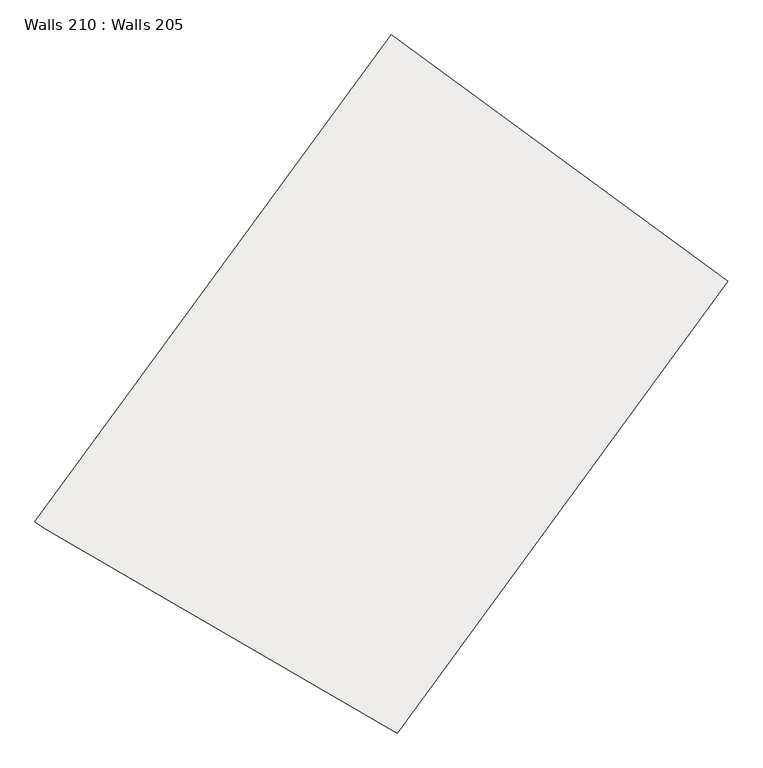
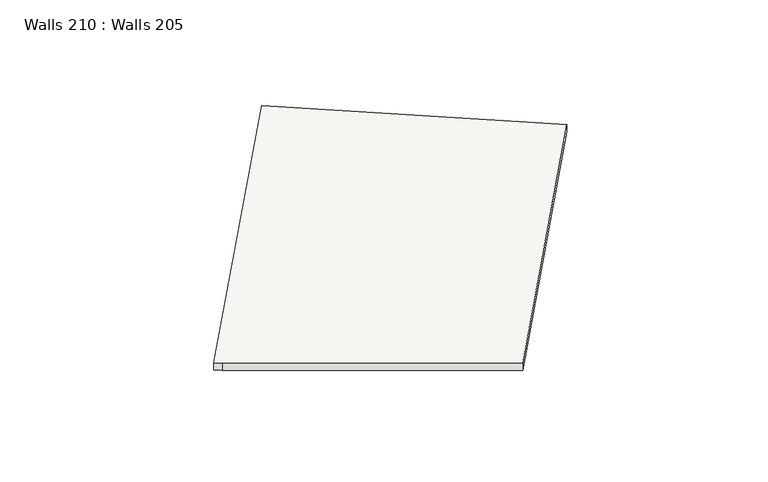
"""IFC4 building model written with IfcOpenShell, lengths in millimetres: slab geometry, Walls 210 : Walls 205."""

import ifcopenshell
import ifcopenshell.guid

model = None  # the IFC model being written
_history = None  # IfcOwnerHistory: only IFC2X3 demands one
_inside = {}  # id of a spatial element -> (the spatial element, [elements in it])
_under = {}  # id of a project, library or spatial element -> (it, [spatial elements below it])
_declared = {}  # id of a project -> (the project, [libraries it declares])
_typed = {}  # id of a type object -> (the type object, [elements of that type])
_made_of = {}  # id of a material, layer set ... -> (it, [elements and type objects made of it])


def new_model(schema):
    """Start an empty IFC model of exactly this schema.

    Asked for "IFC4X3", IfcOpenShell would pick the latest addendum, in which some entities
    have other attributes; the version numbers below select the first issue.
    IFC2X3 requires an IfcOwnerHistory on every rooted entity: one is made here for all.
    """
    global model, _history
    if schema == "IFC4X3":
        model = ifcopenshell.file(schema_version=(4, 3, 0, 0))
    else:
        model = ifcopenshell.file(schema=schema)
    _inside.clear()
    _under.clear()
    _declared.clear()
    _typed.clear()
    _made_of.clear()
    _history = None
    if model.schema == "IFC2X3":
        org = make("IfcOrganization", Name="unknown")
        user = make(
            "IfcPersonAndOrganization",
            ThePerson=make("IfcPerson", FamilyName="unknown"),
            TheOrganization=org,
        )
        app = make(
            "IfcApplication",
            ApplicationDeveloper=org,
            Version="unknown",
            ApplicationFullName="unknown",
            ApplicationIdentifier="unknown",
        )
        _history = make(
            "IfcOwnerHistory",
            OwningUser=user,
            OwningApplication=app,
            ChangeAction="ADDED",
            CreationDate=0,
        )
    return model


def make(cls, **values):
    """One entity of the class cls with the attributes given. An attribute that is None is left unset."""
    return model.create_entity(
        cls, **{name: value for name, value in values.items() if value is not None}
    )


def rooted(cls, **values):
    """An entity with a GlobalId (a new one), such as an element, a storey or a relation."""
    return make(cls, GlobalId=ifcopenshell.guid.new(), OwnerHistory=_history, **values)


def si_unit(unit_type, name, prefix=None):
    """IfcSIUnit, for example si_unit("LENGTHUNIT", "METRE", prefix="MILLI")."""
    return make("IfcSIUnit", UnitType=unit_type, Prefix=prefix, Name=name)


def assignment(units):
    """IfcUnitAssignment: the units of a project."""
    return None if units is None else make("IfcUnitAssignment", Units=units)


def point(xyz):
    """IfcCartesianPoint."""
    return None if xyz is None else make("IfcCartesianPoint", Coordinates=xyz)


def direction(xyz):
    """IfcDirection."""
    return None if xyz is None else make("IfcDirection", DirectionRatios=xyz)


def frame(location, z_axis=None, x_axis=None):
    """IfcAxis2Placement3D, a coordinate frame: its origin and axes. An axis left out is left unset."""
    return make(
        "IfcAxis2Placement3D",
        Location=point(location),
        Axis=direction(z_axis),
        RefDirection=direction(x_axis),
    )


def origin():
    """The frame at (0, 0, 0) with its axes left unset."""
    return frame((0.0, 0.0, 0.0))


def place(relative_to, where):
    """IfcLocalPlacement: puts the frame where relative to a parent placement (None: the world)."""
    return make(
        "IfcLocalPlacement", PlacementRelTo=relative_to, RelativePlacement=where
    )


def context(
    kind, dimensions, precision=None, world=None, true_north=None, identifier=None
):
    """IfcGeometricRepresentationContext, for example the 3D "Model" context."""
    return make(
        "IfcGeometricRepresentationContext",
        ContextIdentifier=identifier,
        ContextType=kind,
        CoordinateSpaceDimension=dimensions,
        Precision=precision,
        WorldCoordinateSystem=world,
        TrueNorth=true_north,
    )


def project(units=None, contexts=None):
    """IfcProject with its units and contexts."""
    return rooted(
        "IfcProject",
        Name="project",
        RepresentationContexts=contexts,
        UnitsInContext=assignment(units),
    )


def spatial(cls, under=None, at=None, **own):
    """A site, building, storey or space (cls), placed at a placement, below another one or the project."""
    s = rooted(cls, ObjectPlacement=at, **own)
    if under is not None:
        _under.setdefault(under.id(), (under, []))[1].append(s)
    return s


def faces_of(points, faces, orient=None, outer=None):
    """IfcFace entities. A face is a list of loops; a loop is a list of indices into points, from 0.

    orient and outer hold one flag for each loop. By default every Orientation is true, the
    first loop of a face is its IfcFaceOuterBound and the others are IfcFaceBound.
    """
    made = []
    for i, loops in enumerate(faces):
        bounds = []
        for j, loop in enumerate(loops):
            is_outer = j == 0 if outer is None else outer[i][j]
            bounds.append(
                make(
                    "IfcFaceOuterBound" if is_outer else "IfcFaceBound",
                    Bound=make("IfcPolyLoop", Polygon=[points[k] for k in loop]),
                    Orientation=True if orient is None else orient[i][j],
                )
            )
        made.append(make("IfcFace", Bounds=bounds))
    return made


def faceted_brep(points, faces, orient=None, outer=None, voids=None):
    """IfcFacetedBrep: a solid bounded by flat faces; with voids (closed shells), ...WithVoids."""
    shared = [point(p) for p in points]
    hull = make("IfcClosedShell", CfsFaces=faces_of(shared, faces, orient, outer))
    if voids is None:
        return make("IfcFacetedBrep", Outer=hull)
    return make(
        "IfcFacetedBrepWithVoids",
        Outer=hull,
        Voids=[
            make(cls, CfsFaces=faces_of(shared, fs, o, b)) for cls, fs, o, b in voids
        ],
    )


def shape(context_of_items, identifier, shape_type, items):
    """IfcShapeRepresentation: the items that make up one representation, for example the "Body"."""
    return make(
        "IfcShapeRepresentation",
        ContextOfItems=context_of_items,
        RepresentationIdentifier=identifier,
        RepresentationType=shape_type,
        Items=items,
    )


def source(mapping_origin, context_of_items, identifier, shape_type, items):
    """IfcRepresentationMap: a shape defined once, which mapped items show again and again."""
    return make(
        "IfcRepresentationMap",
        MappingOrigin=mapping_origin,
        MappedRepresentation=shape(context_of_items, identifier, shape_type, items),
    )


def transform(
    local_origin,
    x_axis=None,
    y_axis=None,
    z_axis=None,
    scale=None,
    scale2=None,
    scale3=None,
    uniform=True,
):
    """IfcCartesianTransformationOperator3D, or its non-uniform kind. x_axis, y_axis, z_axis: its Axis1, 2, 3."""
    if uniform:
        return make(
            "IfcCartesianTransformationOperator3D",
            Axis1=direction(x_axis),
            Axis2=direction(y_axis),
            LocalOrigin=point(local_origin),
            Scale=scale,
            Axis3=direction(z_axis),
        )
    return make(
        "IfcCartesianTransformationOperator3DnonUniform",
        Axis1=direction(x_axis),
        Axis2=direction(y_axis),
        LocalOrigin=point(local_origin),
        Scale=scale,
        Axis3=direction(z_axis),
        Scale2=scale2,
        Scale3=scale3,
    )


def mapped(mapping_source, mapping_target):
    """IfcMappedItem: shows the shape of a source again, moved by a transform."""
    return make(
        "IfcMappedItem", MappingSource=mapping_source, MappingTarget=mapping_target
    )


def made_of(thing, what):
    """Note that an element or type object is made of a material, layer set ...; save() writes the relation."""
    if what is not None:
        _made_of.setdefault(what.id(), (what, []))[1].append(thing)
    return thing


def element(
    cls,
    number,
    at=None,
    inside=None,
    cuts=None,
    type_object=None,
    material=None,
    context=None,
    identifier="Body",
    shape_type=None,
    held_by="IfcProductDefinitionShape",
    body=None,
    shapes=None,
    **own,
):
    """One element of the class cls, such as IfcWall. Its Tag is "e" and its number.

    at: its placement. inside: the storey or other place that contains it. cuts: it is an
    opening in that element (IfcRelVoidsElement). A single representation is given by context,
    identifier, shape_type and body (its items); several are given by shapes. held_by: the class
    of the entity that holds the representations. save() writes the other relations.
    """
    e = rooted(cls, Tag="e%d" % number, ObjectPlacement=at, **own)
    if body is not None:
        shapes = [shape(context, identifier, shape_type, body)]
    if shapes is not None:
        e.Representation = make(held_by, Representations=shapes)
    if inside is not None:
        _inside.setdefault(inside.id(), (inside, []))[1].append(e)
    if cuts is not None:
        rooted(
            "IfcRelVoidsElement", RelatingBuildingElement=cuts, RelatedOpeningElement=e
        )
    if type_object is not None:
        _typed.setdefault(type_object.id(), (type_object, []))[1].append(e)
    return made_of(e, material)


def aggregate(whole, parts):
    """IfcRelAggregates: a whole, such as a stair, and the parts it consists of."""
    return rooted("IfcRelAggregates", RelatingObject=whole, RelatedObjects=parts)


def save(model, path):
    """Write the relations noted so far, then the file.

    IfcRelAggregates (storeys below a building ...), IfcRelContainedInSpatialStructure (elements
    in a storey), IfcRelDefinesByType, IfcRelAssociatesMaterial and IfcRelDeclares: one each for
    every whole, place, type object, material and project.
    """
    for whole, parts in _under.values():
        aggregate(whole, parts)
    for where, things in _inside.values():
        rooted(
            "IfcRelContainedInSpatialStructure",
            RelatedElements=things,
            RelatingStructure=where,
        )
    for kind, things in _typed.values():
        rooted("IfcRelDefinesByType", RelatedObjects=things, RelatingType=kind)
    for what, things in _made_of.values():
        rooted("IfcRelAssociatesMaterial", RelatedObjects=things, RelatingMaterial=what)
    for by, libraries in _declared.values():
        rooted("IfcRelDeclares", RelatingContext=by, RelatedDefinitions=libraries)
    model.write(path)


def walls_210_walls_205_2a0f97ad(model_context):
    return source(origin(), model_context, "Body", "Brep", [
        faceted_brep([(432376.5526541, 387210.3505878, 646457.0), (432376.5526541, 387210.3505878, 646357.0), (432457.2675607, 387151.3158196, 646357.0), (432457.2675607, 387151.3158196, 646457.0), (435533.6403074, 391526.8583526, 646523.0), (438520.0918519, 389342.571931, 646523.0), (438520.0918519, 389342.571931, 646423.0), (435533.6403074, 391526.8583526, 646423.0), (435590.3991584, 385336.9684605, 646361.7537696), (435590.3991584, 385336.9684605, 646461.7537696)], [[[0, 1, 2, 3]], [[4, 5, 6, 7]], [[3, 2, 8, 9]], [[5, 4, 0, 3, 9]], [[1, 0, 4, 7]], [[7, 6, 8, 2, 1]], [[6, 5, 9, 8]]]),
    ])


if __name__ == "__main__":
    model = new_model("IFC4")
    model_context = context("Model", 3, world=origin())
    ifc_project = project(units=[si_unit("LENGTHUNIT", "METRE", prefix="MILLI")], contexts=[model_context])
    site = spatial("IfcSite", under=ifc_project)
    building = spatial("IfcBuilding", under=site)
    placement = place(None, origin())
    walls_210_walls_205_shape = walls_210_walls_205_2a0f97ad(model_context)
    element("IfcSlab", 1, ObjectType="Walls 210 : Walls 205", at=placement, inside=building, context=model_context, shape_type="MappedRepresentation", body=[
        mapped(walls_210_walls_205_shape, transform((0.0, 0.0, 0.0), x_axis=(1.0, 0.0, 0.0), y_axis=(0.0, 1.0, 0.0), z_axis=(0.0, 0.0, 1.0))),
    ])
    save(model, "model.ifc")
